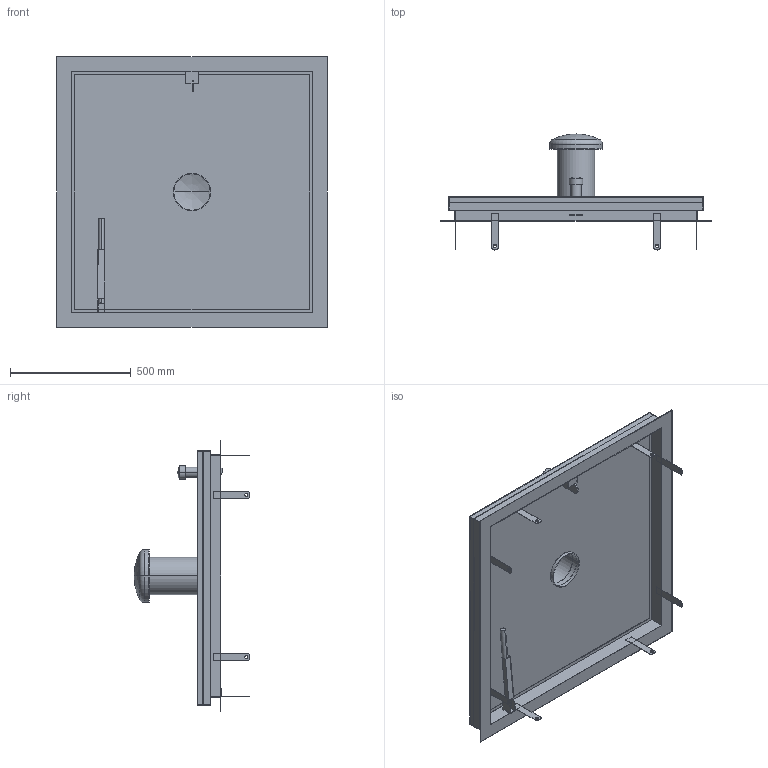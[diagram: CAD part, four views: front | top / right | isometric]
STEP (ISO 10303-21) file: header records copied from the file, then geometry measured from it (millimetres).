
FILE_DESCRIPTION((''),'2;1');
FILE_NAME('52335843','2024-12-19T07:46:18',('wep'),('HUBER SE'),'CREO PARAMETRIC BY PTC INC, 2022162','CREO PARAMETRIC BY PTC INC, 2022162','');
FILE_SCHEMA(('AUTOMOTIVE_DESIGN { 1 0 10303 214 1 1 1 1 }'));
Length unit declared in the file: millimetre
Products named in the file (1): 52335843
Bounding box: 1120 x 479 x 1120 mm (x, y, z)
Volume: 5859969.9 mm3; surface area: 6423361.2 mm2
Topology: 4 solids, 5 shells, 757 faces, 2048 edges, 1353 vertices
Faces by surface type: plane 425, extrusion 275, cylinder 47, torus 4, bspline 4, sphere 2
Entity records: 25642 total; most frequent: CARTESIAN_POINT 6895, ORIENTED_EDGE 4084, DIRECTION 2831, EDGE_CURVE 2042, VECTOR 1659, LINE 1384, VERTEX_POINT 1353, EDGE_LOOP 835
